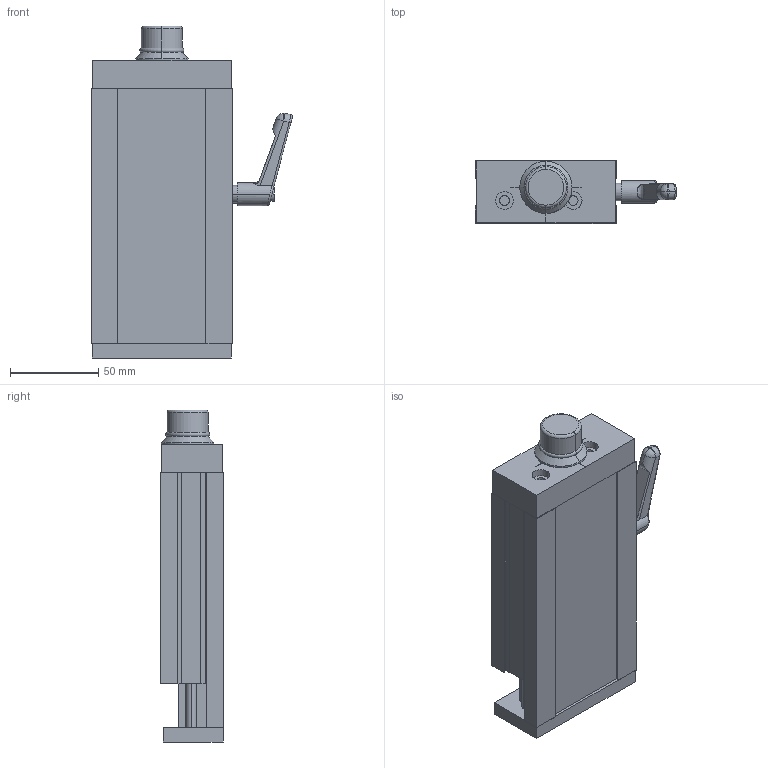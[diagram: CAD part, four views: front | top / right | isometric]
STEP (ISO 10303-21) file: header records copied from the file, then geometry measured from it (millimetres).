
FILE_DESCRIPTION (( 'STEP AP203' ), '1' );
FILE_NAME ('domiLINE 80 Hub 25 K.STEP', '2004-11-26T13:32:19', ( '' ), ( '' ), 'SwSTEP 2.0', 'SolidWorks 2004073', '' );
FILE_SCHEMA (( 'CONFIG_CONTROL_DESIGN' ));
Length unit declared in the file: millimetre
Products named in the file (4): domiLINE 80 Hub 25 K; Aussen neu light 80-+-D003976_ _Standard; Klemmhebel-+-D006684_ _PDB_1009543; dL80 neu light-+-D003977_ _25
Assembly tree (3 placements, depth 2):
  domiLINE 80 Hub 25 K
    Aussen neu light 80-+-D003976_ _Standard
    Klemmhebel-+-D006684_ _PDB_1009543
    dL80 neu light-+-D003977_ _25
Bounding box: 114.16 x 36 x 188.5 mm (x, y, z)
Volume: 386491 mm3; surface area: 105876.4 mm2
Topology: 3 solids, 4 shells, 200 faces, 501 edges, 324 vertices
Faces by surface type: plane 122, cylinder 61, bspline 5, sphere 4, cone 4, torus 4
Entity records: 10182 total; most frequent: CARTESIAN_POINT 4923, DIRECTION 1009, ORIENTED_EDGE 1002, EDGE_CURVE 501, LINE 347, VECTOR 347, AXIS2_PLACEMENT_3D 331, VERTEX_POINT 324
